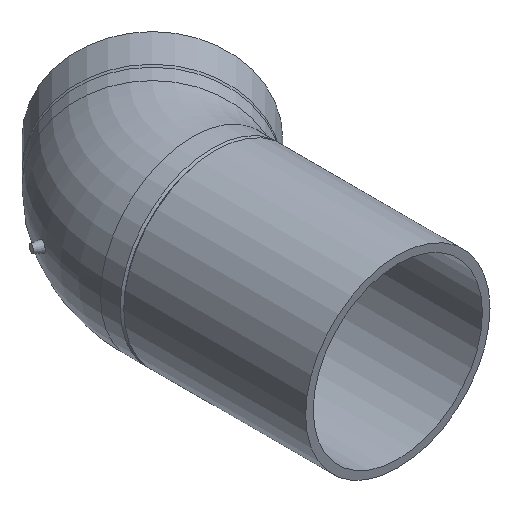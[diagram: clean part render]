
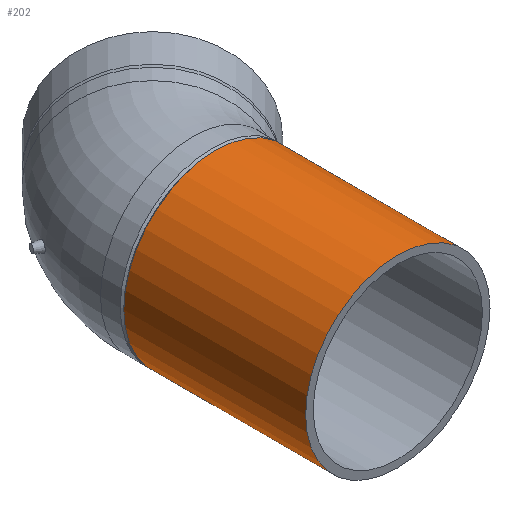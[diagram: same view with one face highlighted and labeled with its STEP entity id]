
A CAD part, isometric view. The second image highlights one B-rep face of the part: STEP entity #202.
In plain terms, the highlighted cylindrical face has radius 55.2 mm (diameter 110.4 mm), a full revolution.
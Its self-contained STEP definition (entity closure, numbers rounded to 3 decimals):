
#19=CYLINDRICAL_SURFACE($,#235,55.2);
#36=FACE_BOUND($,#97,.T.);
#49=CIRCLE($,#224,55.2);
#55=CIRCLE($,#236,55.2);
#69=FACE_OUTER_BOUND($,#96,.T.);
#96=EDGE_LOOP($,(#161));
#97=EDGE_LOOP($,(#162));
#112=VERTEX_POINT($,#369);
#118=VERTEX_POINT($,#387);
#128=EDGE_CURVE($,#112,#112,#49,.T.);
#134=EDGE_CURVE($,#118,#118,#55,.T.);
#161=ORIENTED_EDGE($,*,*,#134,.F.);
#162=ORIENTED_EDGE($,*,*,#128,.T.);
#202=ADVANCED_FACE($,(#69,#36),#19,.T.);
#224=AXIS2_PLACEMENT_3D($,#370,#273,#274);
#235=AXIS2_PLACEMENT_3D($,#386,#295,#296);
#236=AXIS2_PLACEMENT_3D($,#388,#297,#298);
#273=DIRECTION('center_axis',(0.,-1.,0.));
#274=DIRECTION('ref_axis',(1.,0.,0.));
#295=DIRECTION('center_axis',(0.,1.,0.));
#296=DIRECTION('ref_axis',(1.,0.,0.));
#297=DIRECTION('center_axis',(0.,-1.,0.));
#298=DIRECTION('ref_axis',(1.,0.,0.));
#369=CARTESIAN_POINT('',(-55.2,108.896,0.));
#370=CARTESIAN_POINT('Origin',(0.,108.896,0.));
#386=CARTESIAN_POINT('Origin',(0.,0.,0.));
#387=CARTESIAN_POINT('',(-55.2,0.,0.));
#388=CARTESIAN_POINT('Origin',(0.,0.,0.));
